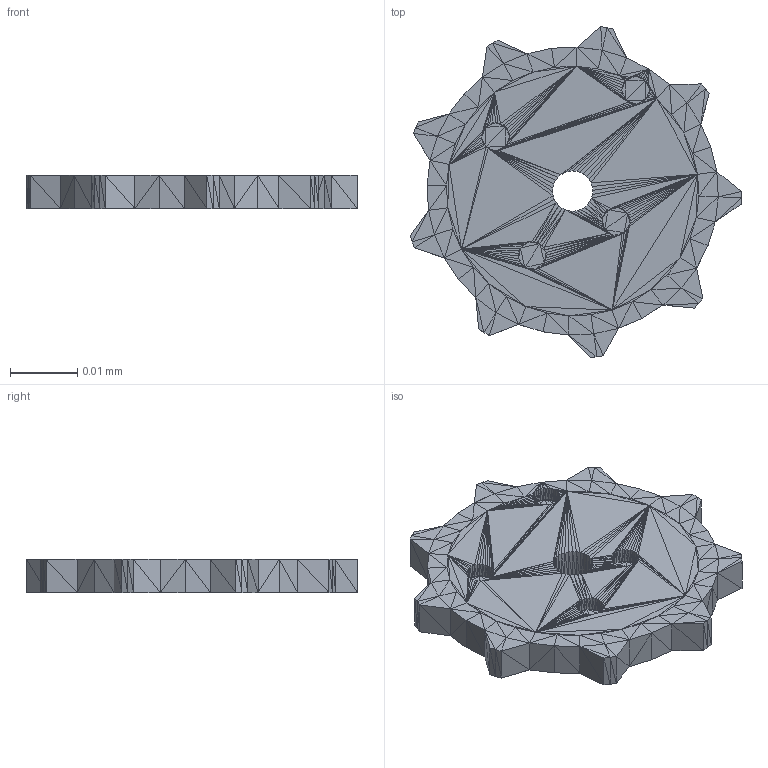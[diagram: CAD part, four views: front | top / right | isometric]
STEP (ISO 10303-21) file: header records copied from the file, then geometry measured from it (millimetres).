
FILE_DESCRIPTION((' Model'),'2;1');
FILE_NAME(' Shape Model','2026-05-29T17:25:42',(''),( ''),' ','','Unknown');
FILE_SCHEMA(('AUTOMOTIVE_DESIGN { 1 0 10303 214 1 1 1 1 }'));
Length unit declared in the file: millimetre
Products named in the file (1):  STEP translator 7.5 1
Bounding box: 0.05 x 0.05 x 0 mm (x, y, z)
Surface area: 0 mm2 (no closed solid volume)
Topology: 0 solids, 1 shells, 1051 faces, 1576 edges, 525 vertices
Faces by surface type: plane 1051
Entity records: 39428 total; most frequent: CARTESIAN_POINT 7873, DIRECTION 5264, LINE 3160, VECTOR 3160, ORIENTED_EDGE 3152, PCURVE 3152, DEFINITIONAL_REPRESENTATION 3152, EDGE_CURVE 1576
